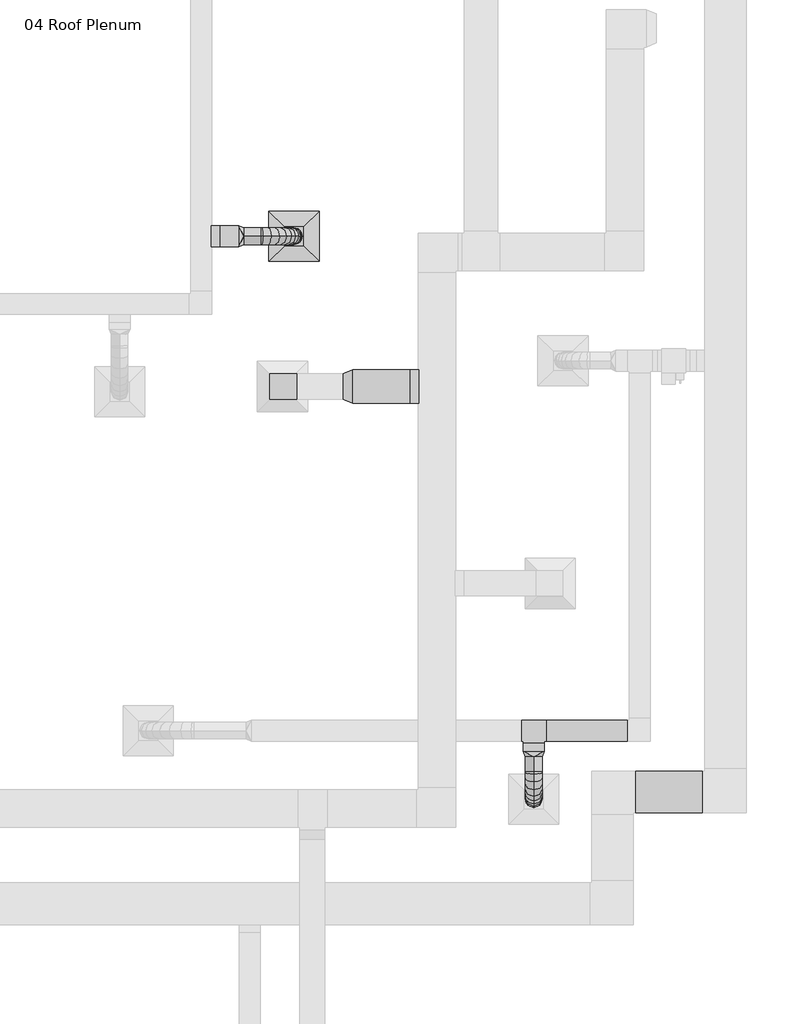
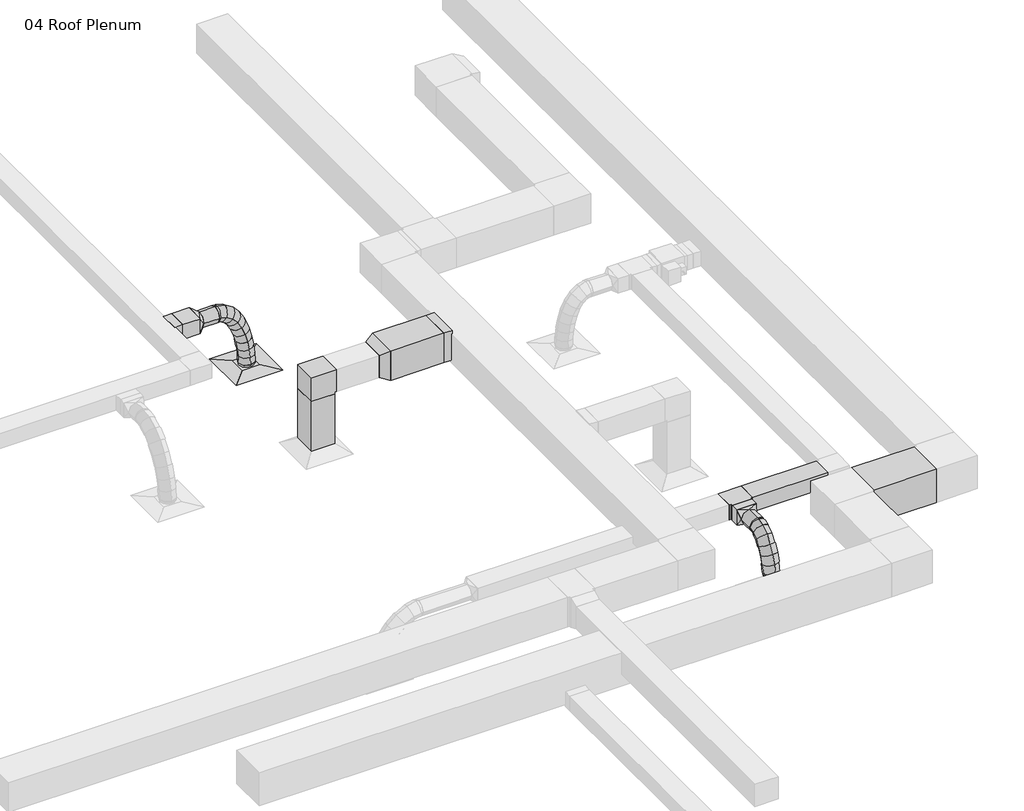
# One storey, part 4 of 9: 10 duct segments, 7 duct fittings, 1 air terminal.
"""IFC4 building model written with IfcOpenShell, lengths in millimetres."""

from ifc_helpers import new_model, si_unit, point, frame, frame_2d, origin, place, context, project, spatial, polyline, circle_curve, ellipse_curve, trimmed, segment, composite_curve, outline, extrude, transform, mapped, element, save
from ifc_brep_helpers import plane_surface, cylinder_surface, advanced_brep
from components import supply_diffuser_rectangular_face_round_neck_d30_6390248a, rectangular_elbow_mitered_standard_4ff1c4e8, rectangular_takeoff_standard_6de9fcd1, rectangular_takeoff_standard_c54ab2d1, rectangular_tee_standard_b316833c, rectangular_transition_angle_45_degree_0e490c41, rectangular_to_round_transition_angle_45_degree_e9430680

model = new_model("IFC4")

# Units and contexts
model_context = context("Model", 3, world=origin())
ifc_project = project(units=[si_unit("LENGTHUNIT", "METRE", prefix="MILLI")], contexts=[model_context])

# Site, building, storey
site = spatial("IfcSite", under=ifc_project)
building = spatial("IfcBuilding", under=site)
storey = spatial("IfcBuildingStorey", under=building, Name="04 Roof Plenum", Elevation=12192.0)

# Air terminal
placement = place(None, origin())
supply_diffuser_rectangular_face_round_neck_d30_shape = supply_diffuser_rectangular_face_round_neck_d30_6390248a(model_context)
element("IfcAirTerminal", 1, ObjectType="Supply Diffuser - Rectangular Face Round Neck : D30_SupplyDiffuser_24x24 8 Neck", at=placement, inside=storey, context=model_context, shape_type="MappedRepresentation", body=[
    mapped(supply_diffuser_rectangular_face_round_neck_d30_shape, transform((-9710.4163107, 6754.5033388, 12192.0), x_axis=(1.0, 0.0, 0.0), y_axis=(0.0, 1.0, 0.0), z_axis=(0.0, 0.0, 1.0))),
])

# Duct fittings
rectangular_elbow_mitered_standard_shape = rectangular_elbow_mitered_standard_4ff1c4e8(model_context)
element("IfcDuctFitting", 2, ObjectType="Rectangular Elbow - Mitered : Standard", at=placement, inside=storey, context=model_context, shape_type="MappedRepresentation", body=[
    mapped(rectangular_elbow_mitered_standard_shape, transform((-9849.7375216, 4928.6505887, 13157.2), x_axis=(0.0, 0.0, 1.0), y_axis=(1.0, 0.0, 0.0), z_axis=(0.0, 1.0, 0.0))),
])
rectangular_takeoff_standard_shape = rectangular_takeoff_standard_6de9fcd1(model_context)
element("IfcDuctFitting", 3, ObjectType="Rectangular Takeoff : Standard", at=placement, inside=storey, context=model_context, shape_type="MappedRepresentation", body=[
    mapped(rectangular_takeoff_standard_shape, transform((-8201.1142705, 4928.6505887, 13157.2), x_axis=(-1.0, 0.0, 0.0), y_axis=(0.0, 1.0, 0.0), z_axis=(0.0, 0.0, -1.0))),
])
rectangular_takeoff_standard_2_shape = rectangular_takeoff_standard_c54ab2d1(model_context)
element("IfcDuctFitting", 4, ObjectType="Rectangular Takeoff : Standard", at=placement, inside=storey, context=model_context, shape_type="MappedRepresentation", body=[
    mapped(rectangular_takeoff_standard_2_shape, transform((-10710.7723705, 6754.5033388, 13030.2), x_axis=(1.0, 0.0, 0.0), y_axis=(0.0, -1.0, 0.0), z_axis=(0.0, 0.0, -1.0))),
])
rectangular_tee_standard_shape = rectangular_tee_standard_b316833c(model_context)
element("IfcDuctFitting", 5, ObjectType="Rectangular Tee : Standard", at=placement, inside=storey, context=model_context, shape_type="MappedRepresentation", body=[
    mapped(rectangular_tee_standard_shape, transform((-6797.3043703, 747.3140793, 12903.2), x_axis=(1.0, 0.0, 0.0), y_axis=(0.0, 1.0, 0.0), z_axis=(0.0, 0.0, 1.0))),
])
rectangular_transition_angle_45_degree_shape = rectangular_transition_angle_45_degree_0e490c41(model_context)
element("IfcDuctFitting", 6, ObjectType="Rectangular Transition - Angle : 45 Degree", at=placement, inside=storey, context=model_context, shape_type="MappedRepresentation", body=[
    mapped(rectangular_transition_angle_45_degree_shape, transform((-8995.7497127, 4928.6505887, 13157.2), x_axis=(-1.0, 0.0, 0.0), y_axis=(0.0, -1.0, 0.0), z_axis=(0.0, 0.0, 1.0))),
])
rectangular_to_round_transition_angle_45_degree_shape = rectangular_to_round_transition_angle_45_degree_e9430680(model_context)
element("IfcDuctFitting", 7, ObjectType="Rectangular to Round Transition - Angle : 45 Degree", at=placement, inside=storey, context=model_context, shape_type="MappedRepresentation", body=[
    mapped(rectangular_to_round_transition_angle_45_degree_shape, transform((-6797.3043703, 493.3140793, 12903.2), x_axis=(0.0, -1.0, 0.0), y_axis=(1.0, 0.0, 0.0), z_axis=(0.0, 0.0, 1.0))),
])
element("IfcDuctFitting", 8, ObjectType="Rectangular to Round Transition - Angle : 45 Degree", at=placement, inside=storey, context=model_context, shape_type="MappedRepresentation", body=[
    mapped(rectangular_to_round_transition_angle_45_degree_shape, transform((-10380.5723705, 6754.5033388, 13030.2), x_axis=(1.0, 0.0, 0.0), y_axis=(0.0, 1.0, 0.0), z_axis=(0.0, 0.0, 1.0))),
])

# Duct segments
element("IfcDuctSegment", 9, ObjectType="Flex - Round", at=placement, inside=storey, context=model_context, shape_type="AdvancedBrep", body=[
    advanced_brep(
    [(-6695.7043703, 254.1930548, 12903.2), (-6797.3043703, 254.1930548, 12801.6), (-6898.9043703, 254.1930548, 12903.2), (-6797.3043703, 254.1930548, 13004.8), (-6695.7043703, 233.1763573, 12903.2), (-6797.3043703, 247.1409716, 12801.6), (-6898.9043703, 233.1763573, 12903.2), (-6797.3043703, 219.211743, 13004.8), (-6695.7043703, -88.3078325, 12245.975), (-6797.3043703, -189.9078325, 12245.975), (-6898.9043703, -88.3078325, 12245.975), (-6797.3043703, 13.2921675, 12245.975), (-6695.7043703, 168.5491909, 12885.092296), (-6797.3043703, 212.3389712, 12791.8489254), (-6898.9043703, 168.5491909, 12885.092296), (-6797.3043703, 124.7594106, 12978.3356666), (-6695.7043703, 96.4579833, 12835.248363), (-6797.3043703, 166.7318867, 12760.3161415), (-6898.9043703, 96.4579833, 12835.248363), (-6797.3043703, 26.18408, 12910.1805845), (-6695.7043703, 37.2618544, 12760.3869697), (-6797.3043703, 123.3489358, 12705.4526191), (-6898.9043703, 37.2618544, 12760.3869697), (-6797.3043703, -48.8252269, 12815.3213203), (-6695.7043703, -9.6967736, 12667.2268847), (-6797.3043703, 84.2619371, 12627.9088688), (-6898.9043703, -9.6967736, 12667.2268847), (-6797.3043703, -103.6554842, 12706.5449006), (-6695.7043703, -45.0754785, 12562.4868766), (-6797.3043703, 52.9097745, 12535.0895934), (-6898.9043703, -45.0754785, 12562.4868766), (-6797.3043703, -143.0607316, 12589.8841599), (-6695.7043703, -69.5318382, 12452.8857141), (-6797.3043703, 30.6101086, 12435.1536523), (-6898.9043703, -69.5318382, 12452.8857141), (-6797.3043703, -169.6737849, 12470.6177759), (-6695.7043703, -83.7234302, 12345.1421656), (-6797.3043703, 17.5539797, 12336.0306192), (-6898.9043703, -83.7234302, 12345.1421656), (-6797.3043703, -185.0008402, 12354.2537121), (-6695.7043703, -88.3078325, 12250.666859), (-6797.3043703, 13.2921675, 12248.2032448), (-6898.9043703, -88.3078325, 12250.666859), (-6797.3043703, -189.9078325, 12253.1304732)],
    [
        (0, 1, circle_curve(frame((-6797.3043703, 254.1930548, 12903.2), z_axis=(0.0, 1.0, 0.0), x_axis=(1.0, 0.0, 0.0)), 101.6)),
        (1, 2, circle_curve(frame((-6797.3043703, 254.1930548, 12903.2), z_axis=(0.0, 1.0, 0.0), x_axis=(1.0, 0.0, 0.0)), 101.6)),
        (2, 3, circle_curve(frame((-6797.3043703, 254.1930548, 12903.2), z_axis=(0.0, 1.0, 0.0), x_axis=(1.0, 0.0, 0.0)), 101.6)),
        (3, 0, circle_curve(frame((-6797.3043703, 254.1930548, 12903.2), z_axis=(0.0, 1.0, 0.0), x_axis=(1.0, 0.0, 0.0)), 101.6)),
        (0, 4),
        (4, 5, ellipse_curve(frame((-6797.3043703, 233.1763573, 12903.2), z_axis=(0.0, 0.9906859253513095, 0.1361667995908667), x_axis=(0.0, 0.13616679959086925, -0.9906859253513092)), 102.5552069, 101.6)),
        (5, 1),
        (5, 6, ellipse_curve(frame((-6797.3043703, 233.1763573, 12903.2), z_axis=(0.0, 0.9906859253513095, 0.1361667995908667), x_axis=(0.0, 0.13616679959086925, -0.9906859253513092)), 102.5552069, 101.6)),
        (6, 2),
        (6, 7, ellipse_curve(frame((-6797.3043703, 233.1763573, 12903.2), z_axis=(0.0, 0.9906859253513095, 0.1361667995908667), x_axis=(0.0, 0.13616679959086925, -0.9906859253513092)), 102.5552069, 101.6)),
        (7, 3),
        (7, 4, ellipse_curve(frame((-6797.3043703, 233.1763573, 12903.2), z_axis=(0.0, 0.9906859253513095, 0.1361667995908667), x_axis=(0.0, 0.13616679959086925, -0.9906859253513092)), 102.5552069, 101.6)),
        (8, 9, circle_curve(frame((-6797.3043703, -88.3078325, 12245.975), z_axis=(0.0, 0.0, -1.0), x_axis=(1.0, 0.0, 0.0)), 101.6)),
        (9, 10, circle_curve(frame((-6797.3043703, -88.3078325, 12245.975), z_axis=(0.0, 0.0, -1.0), x_axis=(1.0, 0.0, 0.0)), 101.6)),
        (10, 11, circle_curve(frame((-6797.3043703, -88.3078325, 12245.975), z_axis=(0.0, 0.0, -1.0), x_axis=(1.0, 0.0, 0.0)), 101.6)),
        (11, 8, circle_curve(frame((-6797.3043703, -88.3078325, 12245.975), z_axis=(0.0, 0.0, -1.0), x_axis=(1.0, 0.0, 0.0)), 101.6)),
        (4, 12),
        (12, 13, ellipse_curve(frame((-6797.3043703, 168.5491909, 12885.092296), z_axis=(0.0, 0.9051529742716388, 0.42508598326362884), x_axis=(0.0, 0.42508598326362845, -0.9051529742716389)), 103.0139361, 101.6)),
        (13, 5),
        (13, 14, ellipse_curve(frame((-6797.3043703, 168.5491909, 12885.092296), z_axis=(0.0, 0.9051529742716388, 0.42508598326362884), x_axis=(0.0, 0.42508598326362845, -0.9051529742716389)), 103.0139361, 101.6)),
        (14, 6),
        (14, 15, ellipse_curve(frame((-6797.3043703, 168.5491909, 12885.092296), z_axis=(0.0, 0.9051529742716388, 0.42508598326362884), x_axis=(0.0, 0.42508598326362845, -0.9051529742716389)), 103.0139361, 101.6)),
        (15, 7),
        (15, 12, ellipse_curve(frame((-6797.3043703, 168.5491909, 12885.092296), z_axis=(0.0, 0.9051529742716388, 0.42508598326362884), x_axis=(0.0, 0.42508598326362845, -0.9051529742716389)), 103.0139361, 101.6)),
        (12, 16),
        (16, 17, ellipse_curve(frame((-6797.3043703, 96.4579833, 12835.248363), z_axis=(0.0, 0.729416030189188, 0.6840703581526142), x_axis=(0.0, 0.6840703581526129, -0.729416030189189)), 102.7290577, 101.6)),
        (17, 13),
        (17, 18, ellipse_curve(frame((-6797.3043703, 96.4579833, 12835.248363), z_axis=(0.0, 0.729416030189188, 0.6840703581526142), x_axis=(0.0, 0.6840703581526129, -0.729416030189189)), 102.7290577, 101.6)),
        (18, 14),
        (18, 19, ellipse_curve(frame((-6797.3043703, 96.4579833, 12835.248363), z_axis=(0.0, 0.729416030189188, 0.6840703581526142), x_axis=(0.0, 0.6840703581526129, -0.729416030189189)), 102.7290577, 101.6)),
        (19, 15),
        (19, 16, ellipse_curve(frame((-6797.3043703, 96.4579833, 12835.248363), z_axis=(0.0, 0.729416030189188, 0.6840703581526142), x_axis=(0.0, 0.6840703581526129, -0.729416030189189)), 102.7290577, 101.6)),
        (16, 20),
        (20, 21, ellipse_curve(frame((-6797.3043703, 37.2618544, 12760.3869697), z_axis=(0.0, 0.5379321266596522, 0.8429881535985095), x_axis=(0.0, 0.842988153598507, -0.5379321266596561)), 102.1213418, 101.6)),
        (21, 17),
        (21, 22, ellipse_curve(frame((-6797.3043703, 37.2618544, 12760.3869697), z_axis=(0.0, 0.5379321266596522, 0.8429881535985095), x_axis=(0.0, 0.842988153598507, -0.5379321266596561)), 102.1213418, 101.6)),
        (22, 18),
        (22, 23, ellipse_curve(frame((-6797.3043703, 37.2618544, 12760.3869697), z_axis=(0.0, 0.5379321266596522, 0.8429881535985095), x_axis=(0.0, 0.842988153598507, -0.5379321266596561)), 102.1213418, 101.6)),
        (23, 19),
        (23, 20, ellipse_curve(frame((-6797.3043703, 37.2618544, 12760.3869697), z_axis=(0.0, 0.5379321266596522, 0.8429881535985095), x_axis=(0.0, 0.842988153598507, -0.5379321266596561)), 102.1213418, 101.6)),
        (20, 24),
        (24, 25, ellipse_curve(frame((-6797.3043703, -9.6967736, 12667.2268847), z_axis=(0.0, 0.3860249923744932, 0.9224883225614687), x_axis=(0.0, 0.9224883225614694, -0.386024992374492)), 101.8535502, 101.6)),
        (25, 21),
        (25, 26, ellipse_curve(frame((-6797.3043703, -9.6967736, 12667.2268847), z_axis=(0.0, 0.3860249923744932, 0.9224883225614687), x_axis=(0.0, 0.9224883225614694, -0.386024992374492)), 101.8535502, 101.6)),
        (26, 22),
        (26, 27, ellipse_curve(frame((-6797.3043703, -9.6967736, 12667.2268847), z_axis=(0.0, 0.3860249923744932, 0.9224883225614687), x_axis=(0.0, 0.9224883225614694, -0.386024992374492)), 101.8535502, 101.6)),
        (27, 23),
        (27, 24, ellipse_curve(frame((-6797.3043703, -9.6967736, 12667.2268847), z_axis=(0.0, 0.3860249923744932, 0.9224883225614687), x_axis=(0.0, 0.9224883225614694, -0.386024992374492)), 101.8535502, 101.6)),
        (24, 28),
        (28, 29, ellipse_curve(frame((-6797.3043703, -45.0754785, 12562.4868766), z_axis=(0.0, 0.26927821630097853, 0.9630624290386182), x_axis=(0.0, 0.9630624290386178, -0.26927821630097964)), 101.7434074, 101.6)),
        (29, 25),
        (29, 30, ellipse_curve(frame((-6797.3043703, -45.0754785, 12562.4868766), z_axis=(0.0, 0.26927821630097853, 0.9630624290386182), x_axis=(0.0, 0.9630624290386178, -0.26927821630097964)), 101.7434074, 101.6)),
        (30, 26),
        (30, 31, ellipse_curve(frame((-6797.3043703, -45.0754785, 12562.4868766), z_axis=(0.0, 0.26927821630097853, 0.9630624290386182), x_axis=(0.0, 0.9630624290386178, -0.26927821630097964)), 101.7434074, 101.6)),
        (31, 27),
        (31, 28, ellipse_curve(frame((-6797.3043703, -45.0754785, 12562.4868766), z_axis=(0.0, 0.26927821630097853, 0.9630624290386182), x_axis=(0.0, 0.9630624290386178, -0.26927821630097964)), 101.7434074, 101.6)),
        (28, 32),
        (32, 33, ellipse_curve(frame((-6797.3043703, -69.5318382, 12452.8857141), z_axis=(0.0, 0.1743570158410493, 0.9846825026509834), x_axis=(0.0, 0.984682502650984, -0.17435701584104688)), 101.6997321, 101.6)),
        (33, 29),
        (33, 34, ellipse_curve(frame((-6797.3043703, -69.5318382, 12452.8857141), z_axis=(0.0, 0.1743570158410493, 0.9846825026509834), x_axis=(0.0, 0.984682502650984, -0.17435701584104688)), 101.6997321, 101.6)),
        (34, 30),
        (34, 35, ellipse_curve(frame((-6797.3043703, -69.5318382, 12452.8857141), z_axis=(0.0, 0.1743570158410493, 0.9846825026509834), x_axis=(0.0, 0.984682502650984, -0.17435701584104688)), 101.6997321, 101.6)),
        (35, 31),
        (35, 32, ellipse_curve(frame((-6797.3043703, -69.5318382, 12452.8857141), z_axis=(0.0, 0.1743570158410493, 0.9846825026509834), x_axis=(0.0, 0.984682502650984, -0.17435701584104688)), 101.6997321, 101.6)),
        (32, 36),
        (36, 37, ellipse_curve(frame((-6797.3043703, -83.7234302, 12345.1421656), z_axis=(0.0, 0.08960433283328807, 0.9959774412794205), x_axis=(0.0, 0.99597744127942, -0.08960433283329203)), 101.6864496, 101.6)),
        (37, 33),
        (37, 38, ellipse_curve(frame((-6797.3043703, -83.7234302, 12345.1421656), z_axis=(0.0, 0.08960433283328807, 0.9959774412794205), x_axis=(0.0, 0.99597744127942, -0.08960433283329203)), 101.6864496, 101.6)),
        (38, 34),
        (38, 39, ellipse_curve(frame((-6797.3043703, -83.7234302, 12345.1421656), z_axis=(0.0, 0.08960433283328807, 0.9959774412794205), x_axis=(0.0, 0.99597744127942, -0.08960433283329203)), 101.6864496, 101.6)),
        (39, 35),
        (39, 36, ellipse_curve(frame((-6797.3043703, -83.7234302, 12345.1421656), z_axis=(0.0, 0.08960433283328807, 0.9959774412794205), x_axis=(0.0, 0.99597744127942, -0.08960433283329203)), 101.6864496, 101.6)),
        (36, 40),
        (40, 41, ellipse_curve(frame((-6797.3043703, -88.3078325, 12250.666859), z_axis=(0.0, 0.02424104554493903, 0.9997061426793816), x_axis=(0.0, 0.9997061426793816, -0.024241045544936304)), 101.6298647, 101.6)),
        (41, 37),
        (41, 42, ellipse_curve(frame((-6797.3043703, -88.3078325, 12250.666859), z_axis=(0.0, 0.02424104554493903, 0.9997061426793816), x_axis=(0.0, 0.9997061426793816, -0.024241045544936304)), 101.6298647, 101.6)),
        (42, 38),
        (42, 43, ellipse_curve(frame((-6797.3043703, -88.3078325, 12250.666859), z_axis=(0.0, 0.02424104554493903, 0.9997061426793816), x_axis=(0.0, 0.9997061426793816, -0.024241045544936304)), 101.6298647, 101.6)),
        (43, 39),
        (43, 40, ellipse_curve(frame((-6797.3043703, -88.3078325, 12250.666859), z_axis=(0.0, 0.02424104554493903, 0.9997061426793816), x_axis=(0.0, 0.9997061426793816, -0.024241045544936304)), 101.6298647, 101.6)),
        (40, 8),
        (11, 41),
        (10, 42),
        (9, 43),
    ],
    [
        plane_surface(frame((-6898.9043703, 254.1930548, 12903.2), z_axis=(0.0, 1.0, 0.0), x_axis=(0.0, 0.0, -1.0))),
        cylinder_surface(frame((-6797.3043703, 254.1930548, 12903.2), z_axis=(0.0, 1.0, 0.0), x_axis=(1.0, 0.0, 0.0)), 101.6),
        plane_surface(frame((-6797.3043703, -189.9078325, 12245.975), z_axis=(0.0, 0.0, -1.0), x_axis=(-1.0, 0.0, 0.0))),
        cylinder_surface(frame((-6797.3043703, 233.1763573, 12903.2), z_axis=(0.0, 0.9629172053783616, 0.26979706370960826), x_axis=(1.0, 0.0, 0.0)), 101.6),
        cylinder_surface(frame((-6797.3043703, 168.5491909, 12885.092296), z_axis=(0.0, 0.8225410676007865, 0.5687057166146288), x_axis=(1.0, 0.0, 0.0)), 101.6),
        cylinder_surface(frame((-6797.3043703, 96.4579833, 12835.248363), z_axis=(0.0, 0.6202574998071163, 0.7843982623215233), x_axis=(1.0, 0.0, 0.0)), 101.6),
        cylinder_surface(frame((-6797.3043703, 37.2618544, 12760.3869697), z_axis=(0.0, 0.45011433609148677, 0.8929709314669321), x_axis=(1.0, 0.0, 0.0)), 101.6),
        cylinder_surface(frame((-6797.3043703, -9.6967736, 12667.2268847), z_axis=(0.0, 0.3200137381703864, 0.9474129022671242), x_axis=(1.0, 0.0, 0.0)), 101.6),
        cylinder_surface(frame((-6797.3043703, -45.0754785, 12562.4868766), z_axis=(0.0, 0.21778359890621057, 0.975997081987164), x_axis=(1.0, 0.0, 0.0)), 101.6),
        cylinder_surface(frame((-6797.3043703, -69.5318382, 12452.8857141), z_axis=(0.0, 0.13058846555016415, 0.9914366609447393), x_axis=(1.0, 0.0, 0.0)), 101.6),
        cylinder_surface(frame((-6797.3043703, -83.7234302, 12345.1421656), z_axis=(0.0, 0.04846784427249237, 0.9988247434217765), x_axis=(1.0, 0.0, 0.0)), 101.6),
        cylinder_surface(frame((-6797.3043703, -88.3078325, 12250.666859), z_axis=(0.0, 0.0, 1.0), x_axis=(1.0, 0.0, 0.0)), 101.6),
    ],
    [
        (0, [[1, 2, 3, 4]]),
        (1, [[-1, 5, 6, 7]]),
        (1, [[-2, -7, 8, 9]]),
        (1, [[-3, -9, 10, 11]]),
        (1, [[-4, -11, 12, -5]]),
        (2, [[13, 14, 15, 16]]),
        (3, [[-6, 17, 18, 19]]),
        (3, [[-8, -19, 20, 21]]),
        (3, [[-10, -21, 22, 23]]),
        (3, [[-12, -23, 24, -17]]),
        (4, [[-18, 25, 26, 27]]),
        (4, [[-20, -27, 28, 29]]),
        (4, [[-22, -29, 30, 31]]),
        (4, [[-24, -31, 32, -25]]),
        (5, [[-26, 33, 34, 35]]),
        (5, [[-28, -35, 36, 37]]),
        (5, [[-30, -37, 38, 39]]),
        (5, [[-32, -39, 40, -33]]),
        (6, [[-34, 41, 42, 43]]),
        (6, [[-36, -43, 44, 45]]),
        (6, [[-38, -45, 46, 47]]),
        (6, [[-40, -47, 48, -41]]),
        (7, [[-42, 49, 50, 51]]),
        (7, [[-44, -51, 52, 53]]),
        (7, [[-46, -53, 54, 55]]),
        (7, [[-48, -55, 56, -49]]),
        (8, [[-50, 57, 58, 59]]),
        (8, [[-52, -59, 60, 61]]),
        (8, [[-54, -61, 62, 63]]),
        (8, [[-56, -63, 64, -57]]),
        (9, [[-58, 65, 66, 67]]),
        (9, [[-60, -67, 68, 69]]),
        (9, [[-62, -69, 70, 71]]),
        (9, [[-64, -71, 72, -65]]),
        (10, [[-66, 73, 74, 75]]),
        (10, [[-68, -75, 76, 77]]),
        (10, [[-70, -77, 78, 79]]),
        (10, [[-72, -79, 80, -73]]),
        (11, [[-74, 81, -16, 82]]),
        (11, [[-76, -82, -15, 83]]),
        (11, [[-78, -83, -14, 84]]),
        (11, [[-80, -84, -13, -81]]),
    ],
),
])
element("IfcDuctSegment", 10, ObjectType="Flex - Round", at=placement, inside=storey, context=model_context, shape_type="AdvancedBrep", body=[
    advanced_brep(
    [(-10116.051346, 6856.1033388, 13030.2), (-10116.051346, 6754.5033388, 12928.6), (-10116.051346, 6652.9033388, 13030.2), (-10116.051346, 6754.5033388, 13131.8), (-10097.2613499, 6856.1033388, 13030.2), (-10109.1301568, 6754.5033388, 12928.6), (-10097.2613499, 6652.9033388, 13030.2), (-10085.392543, 6754.5033388, 13131.8), (-9710.4163107, 6856.1033388, 12245.975), (-9608.8163107, 6754.5033388, 12245.975), (-9710.4163107, 6652.9033388, 12245.975), (-9812.0163107, 6754.5033388, 12245.975), (-10024.6277675, 6856.1033388, 13012.9952525), (-10063.7514042, 6754.5033388, 12917.8511156), (-10024.6277675, 6652.9033388, 13012.9952525), (-9985.5041308, 6754.5033388, 13108.1393895), (-9946.1684467, 6856.1033388, 12965.1424888), (-10011.5801659, 6754.5033388, 12886.0315955), (-9946.1684467, 6652.9033388, 12965.1424888), (-9880.7567276, 6754.5033388, 13044.2533822), (-9880.0836682, 6856.1033388, 12892.2839269), (-9962.3441922, 6754.5033388, 12831.7488648), (-9880.0836682, 6652.9033388, 12892.2839269), (-9797.8231442, 6754.5033388, 12952.818989), (-9825.7837163, 6856.1033388, 12800.0617847), (-9917.0975886, 6754.5033388, 12754.9027798), (-9825.7837163, 6652.9033388, 12800.0617847), (-9734.469844, 6754.5033388, 12845.2207896), (-9782.6788754, 6856.1033388, 12694.1182803), (-9878.8716624, 6754.5033388, 12660.9507203), (-9782.6788754, 6652.9033388, 12694.1182803), (-9686.4860884, 6754.5033388, 12727.2858402), (-9750.17943, 6856.1033388, 12580.0956316), (-9849.0995098, 6754.5033388, 12556.4966397), (-9750.17943, 6652.9033388, 12580.0956316), (-9651.2593501, 6754.5033388, 12603.6946235), (-9727.6956644, 6856.1033388, 12463.6360566), (-9828.1850451, 6754.5033388, 12448.165601), (-9727.6956644, 6652.9033388, 12463.6360566), (-9627.2062838, 6754.5033388, 12479.1065123), (-9714.6378632, 6856.1033388, 12350.3817734), (-9815.9925683, 6754.5033388, 12342.4165399), (-9714.6378632, 6652.9033388, 12350.3817734), (-9613.2831581, 6754.5033388, 12358.347007), (-9710.4163107, 6856.1033388, 12250.0797103), (-9812.0163107, 6754.5033388, 12247.942566), (-9710.4163107, 6652.9033388, 12250.0797103), (-9608.8163107, 6754.5033388, 12252.2168545)],
    [
        (0, 1, circle_curve(frame((-10116.051346, 6754.5033388, 13030.2), z_axis=(-1.0, 0.0, 0.0), x_axis=(0.0, 1.0, 0.0)), 101.6)),
        (1, 2, circle_curve(frame((-10116.051346, 6754.5033388, 13030.2), z_axis=(-1.0, 0.0, 0.0), x_axis=(0.0, 1.0, 0.0)), 101.6)),
        (2, 3, circle_curve(frame((-10116.051346, 6754.5033388, 13030.2), z_axis=(-1.0, 0.0, 0.0), x_axis=(0.0, 1.0, 0.0)), 101.6)),
        (3, 0, circle_curve(frame((-10116.051346, 6754.5033388, 13030.2), z_axis=(-1.0, 0.0, 0.0), x_axis=(0.0, 1.0, 0.0)), 101.6)),
        (0, 4),
        (4, 5, ellipse_curve(frame((-10097.2613499, 6754.5033388, 13030.2), z_axis=(-0.993245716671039, 0.0, 0.11602993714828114), x_axis=(-0.11602993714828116, 0.0, -0.9932457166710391)), 102.2909017, 101.6)),
        (5, 1),
        (5, 6, ellipse_curve(frame((-10097.2613499, 6754.5033388, 13030.2), z_axis=(-0.993245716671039, 0.0, 0.11602993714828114), x_axis=(-0.11602993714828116, 0.0, -0.9932457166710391)), 102.2909017, 101.6)),
        (6, 2),
        (6, 7, ellipse_curve(frame((-10097.2613499, 6754.5033388, 13030.2), z_axis=(-0.993245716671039, 0.0, 0.11602993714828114), x_axis=(-0.11602993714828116, 0.0, -0.9932457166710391)), 102.2909017, 101.6)),
        (7, 3),
        (7, 4, ellipse_curve(frame((-10097.2613499, 6754.5033388, 13030.2), z_axis=(-0.993245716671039, 0.0, 0.11602993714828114), x_axis=(-0.11602993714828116, 0.0, -0.9932457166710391)), 102.2909017, 101.6)),
        (8, 9, circle_curve(frame((-9710.4163107, 6754.5033388, 12245.975), z_axis=(0.0, 0.0, -1.0), x_axis=(0.0, 1.0, 0.0)), 101.6)),
        (9, 10, circle_curve(frame((-9710.4163107, 6754.5033388, 12245.975), z_axis=(0.0, 0.0, -1.0), x_axis=(0.0, 1.0, 0.0)), 101.6)),
        (10, 11, circle_curve(frame((-9710.4163107, 6754.5033388, 12245.975), z_axis=(0.0, 0.0, -1.0), x_axis=(0.0, 1.0, 0.0)), 101.6)),
        (11, 8, circle_curve(frame((-9710.4163107, 6754.5033388, 12245.975), z_axis=(0.0, 0.0, -1.0), x_axis=(0.0, 1.0, 0.0)), 101.6)),
        (4, 12),
        (12, 13, ellipse_curve(frame((-10024.6277675, 6754.5033388, 13012.9952525), z_axis=(-0.9248606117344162, 0.0, 0.38030625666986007), x_axis=(-0.38030625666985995, 0.0, -0.9248606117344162)), 102.8740285, 101.6)),
        (13, 5),
        (13, 14, ellipse_curve(frame((-10024.6277675, 6754.5033388, 13012.9952525), z_axis=(-0.9248606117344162, 0.0, 0.38030625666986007), x_axis=(-0.38030625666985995, 0.0, -0.9248606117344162)), 102.8740285, 101.6)),
        (14, 6),
        (14, 15, ellipse_curve(frame((-10024.6277675, 6754.5033388, 13012.9952525), z_axis=(-0.9248606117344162, 0.0, 0.38030625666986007), x_axis=(-0.38030625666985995, 0.0, -0.9248606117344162)), 102.8740285, 101.6)),
        (15, 7),
        (15, 12, ellipse_curve(frame((-10024.6277675, 6754.5033388, 13012.9952525), z_axis=(-0.9248606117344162, 0.0, 0.38030625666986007), x_axis=(-0.38030625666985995, 0.0, -0.9248606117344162)), 102.8740285, 101.6)),
        (12, 16),
        (16, 17, ellipse_curve(frame((-9946.1684467, 6754.5033388, 12965.1424888), z_axis=(-0.7706783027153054, 0.0, 0.6372244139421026), x_axis=(-0.6372244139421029, 0.0, -0.7706783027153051)), 102.6509934, 101.6)),
        (17, 13),
        (17, 18, ellipse_curve(frame((-9946.1684467, 6754.5033388, 12965.1424888), z_axis=(-0.7706783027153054, 0.0, 0.6372244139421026), x_axis=(-0.6372244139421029, 0.0, -0.7706783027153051)), 102.6509934, 101.6)),
        (18, 14),
        (18, 19, ellipse_curve(frame((-9946.1684467, 6754.5033388, 12965.1424888), z_axis=(-0.7706783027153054, 0.0, 0.6372244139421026), x_axis=(-0.6372244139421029, 0.0, -0.7706783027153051)), 102.6509934, 101.6)),
        (19, 15),
        (19, 16, ellipse_curve(frame((-9946.1684467, 6754.5033388, 12965.1424888), z_axis=(-0.7706783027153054, 0.0, 0.6372244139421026), x_axis=(-0.6372244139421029, 0.0, -0.7706783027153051)), 102.6509934, 101.6)),
        (16, 20),
        (20, 21, ellipse_curve(frame((-9880.0836682, 6754.5033388, 12892.2839269), z_axis=(-0.5927042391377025, 0.0, 0.805420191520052), x_axis=(-0.8054201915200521, 0.0, -0.5927042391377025)), 102.1336749, 101.6)),
        (21, 17),
        (21, 22, ellipse_curve(frame((-9880.0836682, 6754.5033388, 12892.2839269), z_axis=(-0.5927042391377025, 0.0, 0.805420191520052), x_axis=(-0.8054201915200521, 0.0, -0.5927042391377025)), 102.1336749, 101.6)),
        (22, 18),
        (22, 23, ellipse_curve(frame((-9880.0836682, 6754.5033388, 12892.2839269), z_axis=(-0.5927042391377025, 0.0, 0.805420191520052), x_axis=(-0.8054201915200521, 0.0, -0.5927042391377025)), 102.1336749, 101.6)),
        (23, 19),
        (23, 20, ellipse_curve(frame((-9880.0836682, 6754.5033388, 12892.2839269), z_axis=(-0.5927042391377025, 0.0, 0.805420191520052), x_axis=(-0.8054201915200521, 0.0, -0.5927042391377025)), 102.1336749, 101.6)),
        (20, 24),
        (24, 25, ellipse_curve(frame((-9825.7837163, 6754.5033388, 12800.0617847), z_axis=(-0.44329900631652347, 0.0, 0.8963738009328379), x_axis=(-0.8963738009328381, 0.0, -0.44329900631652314)), 101.8703048, 101.6)),
        (25, 21),
        (25, 26, ellipse_curve(frame((-9825.7837163, 6754.5033388, 12800.0617847), z_axis=(-0.44329900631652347, 0.0, 0.8963738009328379), x_axis=(-0.8963738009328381, 0.0, -0.44329900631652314)), 101.8703048, 101.6)),
        (26, 22),
        (26, 27, ellipse_curve(frame((-9825.7837163, 6754.5033388, 12800.0617847), z_axis=(-0.44329900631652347, 0.0, 0.8963738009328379), x_axis=(-0.8963738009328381, 0.0, -0.44329900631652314)), 101.8703048, 101.6)),
        (27, 23),
        (27, 24, ellipse_curve(frame((-9825.7837163, 6754.5033388, 12800.0617847), z_axis=(-0.44329900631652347, 0.0, 0.8963738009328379), x_axis=(-0.8963738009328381, 0.0, -0.44329900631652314)), 101.8703048, 101.6)),
        (24, 28),
        (28, 29, ellipse_curve(frame((-9782.6788754, 6754.5033388, 12694.1182803), z_axis=(-0.32596989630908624, 0.0, 0.9453801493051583), x_axis=(-0.9453801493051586, 0.0, -0.3259698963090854)), 101.7503774, 101.6)),
        (29, 25),
        (29, 30, ellipse_curve(frame((-9782.6788754, 6754.5033388, 12694.1182803), z_axis=(-0.32596989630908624, 0.0, 0.9453801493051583), x_axis=(-0.9453801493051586, 0.0, -0.3259698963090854)), 101.7503774, 101.6)),
        (30, 26),
        (30, 31, ellipse_curve(frame((-9782.6788754, 6754.5033388, 12694.1182803), z_axis=(-0.32596989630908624, 0.0, 0.9453801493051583), x_axis=(-0.9453801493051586, 0.0, -0.3259698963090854)), 101.7503774, 101.6)),
        (31, 27),
        (31, 28, ellipse_curve(frame((-9782.6788754, 6754.5033388, 12694.1182803), z_axis=(-0.32596989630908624, 0.0, 0.9453801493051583), x_axis=(-0.9453801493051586, 0.0, -0.3259698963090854)), 101.7503774, 101.6)),
        (28, 32),
        (32, 33, ellipse_curve(frame((-9750.17943, 6754.5033388, 12580.0956316), z_axis=(-0.23205407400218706, 0.0, 0.9727028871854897), x_axis=(-0.9727028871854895, 0.0, -0.23205407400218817)), 101.6960895, 101.6)),
        (33, 29),
        (33, 34, ellipse_curve(frame((-9750.17943, 6754.5033388, 12580.0956316), z_axis=(-0.23205407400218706, 0.0, 0.9727028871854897), x_axis=(-0.9727028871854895, 0.0, -0.23205407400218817)), 101.6960895, 101.6)),
        (34, 30),
        (34, 35, ellipse_curve(frame((-9750.17943, 6754.5033388, 12580.0956316), z_axis=(-0.23205407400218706, 0.0, 0.9727028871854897), x_axis=(-0.9727028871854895, 0.0, -0.23205407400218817)), 101.6960895, 101.6)),
        (35, 31),
        (35, 32, ellipse_curve(frame((-9750.17943, 6754.5033388, 12580.0956316), z_axis=(-0.23205407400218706, 0.0, 0.9727028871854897), x_axis=(-0.9727028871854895, 0.0, -0.23205407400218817)), 101.6960895, 101.6)),
        (32, 36),
        (36, 37, ellipse_curve(frame((-9727.6956644, 6754.5033388, 12463.6360566), z_axis=(-0.15215855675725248, 0.0, 0.9883560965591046), x_axis=(-0.988356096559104, 0.0, -0.1521585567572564)), 101.6732542, 101.6)),
        (37, 33),
        (37, 38, ellipse_curve(frame((-9727.6956644, 6754.5033388, 12463.6360566), z_axis=(-0.15215855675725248, 0.0, 0.9883560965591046), x_axis=(-0.988356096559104, 0.0, -0.1521585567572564)), 101.6732542, 101.6)),
        (38, 34),
        (38, 39, ellipse_curve(frame((-9727.6956644, 6754.5033388, 12463.6360566), z_axis=(-0.15215855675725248, 0.0, 0.9883560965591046), x_axis=(-0.988356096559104, 0.0, -0.1521585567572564)), 101.6732542, 101.6)),
        (39, 35),
        (39, 36, ellipse_curve(frame((-9727.6956644, 6754.5033388, 12463.6360566), z_axis=(-0.15215855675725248, 0.0, 0.9883560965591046), x_axis=(-0.988356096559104, 0.0, -0.1521585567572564)), 101.6732542, 101.6)),
        (36, 40),
        (40, 41, ellipse_curve(frame((-9714.6378632, 6754.5033388, 12350.3817734), z_axis=(-0.07834614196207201, 0.0, 0.9969262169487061), x_axis=(-0.9969262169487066, 0.0, -0.07834614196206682)), 101.667208, 101.6)),
        (41, 37),
        (41, 42, ellipse_curve(frame((-9714.6378632, 6754.5033388, 12350.3817734), z_axis=(-0.07834614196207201, 0.0, 0.9969262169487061), x_axis=(-0.9969262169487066, 0.0, -0.07834614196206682)), 101.667208, 101.6)),
        (42, 38),
        (42, 43, ellipse_curve(frame((-9714.6378632, 6754.5033388, 12350.3817734), z_axis=(-0.07834614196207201, 0.0, 0.9969262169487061), x_axis=(-0.9969262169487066, 0.0, -0.07834614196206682)), 101.667208, 101.6)),
        (43, 39),
        (43, 40, ellipse_curve(frame((-9714.6378632, 6754.5033388, 12350.3817734), z_axis=(-0.07834614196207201, 0.0, 0.9969262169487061), x_axis=(-0.9969262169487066, 0.0, -0.07834614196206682)), 101.667208, 101.6)),
        (40, 44),
        (44, 45, ellipse_curve(frame((-9710.4163107, 6754.5033388, 12250.0797103), z_axis=(-0.021030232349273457, 0.0, 0.999778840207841), x_axis=(-0.9997788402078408, 0.0, -0.02103023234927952)), 101.6224748, 101.6)),
        (45, 41),
        (45, 46, ellipse_curve(frame((-9710.4163107, 6754.5033388, 12250.0797103), z_axis=(-0.021030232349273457, 0.0, 0.999778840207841), x_axis=(-0.9997788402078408, 0.0, -0.02103023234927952)), 101.6224748, 101.6)),
        (46, 42),
        (46, 47, ellipse_curve(frame((-9710.4163107, 6754.5033388, 12250.0797103), z_axis=(-0.021030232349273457, 0.0, 0.999778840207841), x_axis=(-0.9997788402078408, 0.0, -0.02103023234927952)), 101.6224748, 101.6)),
        (47, 43),
        (47, 44, ellipse_curve(frame((-9710.4163107, 6754.5033388, 12250.0797103), z_axis=(-0.021030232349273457, 0.0, 0.999778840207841), x_axis=(-0.9997788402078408, 0.0, -0.02103023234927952)), 101.6224748, 101.6)),
        (44, 8),
        (11, 45),
        (10, 46),
        (9, 47),
    ],
    [
        plane_surface(frame((-10116.051346, 6754.5033388, 12928.6), z_axis=(-1.0, 0.0, 0.0), x_axis=(0.0, 1.0, 0.0))),
        cylinder_surface(frame((-10116.051346, 6754.5033388, 13030.2), z_axis=(-1.0, 0.0, 0.0), x_axis=(0.0, 1.0, 0.0)), 101.6),
        plane_surface(frame((-9710.4163107, 6652.9033388, 12245.975), z_axis=(0.0, 0.0, -1.0), x_axis=(-1.0, 0.0, 0.0))),
        cylinder_surface(frame((-10097.2613499, 6754.5033388, 13030.2), z_axis=(-0.9730741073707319, 0.0, 0.23049247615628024), x_axis=(0.0, 1.0, 0.0)), 101.6),
        cylinder_surface(frame((-10024.6277675, 6754.5033388, 13012.9952525), z_axis=(-0.8537395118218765, 0.0, 0.5207003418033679), x_axis=(0.0, 1.0, 0.0)), 101.6),
        cylinder_surface(frame((-9946.1684467, 6754.5033388, 12965.1424888), z_axis=(-0.6718358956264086, 0.0, 0.7407000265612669), x_axis=(0.0, 1.0, 0.0)), 101.6),
        cylinder_surface(frame((-9880.0836682, 6754.5033388, 12892.2839269), z_axis=(-0.5073785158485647, 0.0, 0.8617232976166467), x_axis=(0.0, 1.0, 0.0)), 101.6),
        cylinder_surface(frame((-9825.7837163, 6754.5033388, 12800.0617847), z_axis=(-0.3768669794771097, 0.0, 0.9262673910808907), x_axis=(0.0, 1.0, 0.0)), 101.6),
        cylinder_surface(frame((-9782.6788754, 6754.5033388, 12694.1182803), z_axis=(-0.27410930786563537, 0.0, 0.9616985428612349), x_axis=(0.0, 1.0, 0.0)), 101.6),
        cylinder_surface(frame((-9750.17943, 6754.5033388, 12580.0956316), z_axis=(-0.18956031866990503, 0.0, 0.9818690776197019), x_axis=(0.0, 1.0, 0.0)), 101.6),
        cylinder_surface(frame((-9727.6956644, 6754.5033388, 12463.6360566), z_axis=(-0.11453753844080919, 0.0, 0.9934189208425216), x_axis=(0.0, 1.0, 0.0)), 101.6),
        cylinder_surface(frame((-9714.6378632, 6754.5033388, 12350.3817734), z_axis=(-0.04205116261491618, 0.0, 0.9991154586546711), x_axis=(0.0, 1.0, 0.0)), 101.6),
        cylinder_surface(frame((-9710.4163107, 6754.5033388, 12250.0797103), z_axis=(0.0, 0.0, 1.0), x_axis=(0.0, 1.0, 0.0)), 101.6),
    ],
    [
        (0, [[1, 2, 3, 4]]),
        (1, [[-1, 5, 6, 7]]),
        (1, [[-2, -7, 8, 9]]),
        (1, [[-3, -9, 10, 11]]),
        (1, [[-4, -11, 12, -5]]),
        (2, [[13, 14, 15, 16]]),
        (3, [[-6, 17, 18, 19]]),
        (3, [[-8, -19, 20, 21]]),
        (3, [[-10, -21, 22, 23]]),
        (3, [[-12, -23, 24, -17]]),
        (4, [[-18, 25, 26, 27]]),
        (4, [[-20, -27, 28, 29]]),
        (4, [[-22, -29, 30, 31]]),
        (4, [[-24, -31, 32, -25]]),
        (5, [[-26, 33, 34, 35]]),
        (5, [[-28, -35, 36, 37]]),
        (5, [[-30, -37, 38, 39]]),
        (5, [[-32, -39, 40, -33]]),
        (6, [[-34, 41, 42, 43]]),
        (6, [[-36, -43, 44, 45]]),
        (6, [[-38, -45, 46, 47]]),
        (6, [[-40, -47, 48, -41]]),
        (7, [[-42, 49, 50, 51]]),
        (7, [[-44, -51, 52, 53]]),
        (7, [[-46, -53, 54, 55]]),
        (7, [[-48, -55, 56, -49]]),
        (8, [[-50, 57, 58, 59]]),
        (8, [[-52, -59, 60, 61]]),
        (8, [[-54, -61, 62, 63]]),
        (8, [[-56, -63, 64, -57]]),
        (9, [[-58, 65, 66, 67]]),
        (9, [[-60, -67, 68, 69]]),
        (9, [[-62, -69, 70, 71]]),
        (9, [[-64, -71, 72, -65]]),
        (10, [[-66, 73, 74, 75]]),
        (10, [[-68, -75, 76, 77]]),
        (10, [[-70, -77, 78, 79]]),
        (10, [[-72, -79, 80, -73]]),
        (11, [[-74, 81, 82, 83]]),
        (11, [[-76, -83, 84, 85]]),
        (11, [[-78, -85, 86, 87]]),
        (11, [[-80, -87, 88, -81]]),
        (12, [[-82, 89, -16, 90]]),
        (12, [[-84, -90, -15, 91]]),
        (12, [[-86, -91, -14, 92]]),
        (12, [[-88, -92, -13, -89]]),
    ],
),
])
element("IfcDuctSegment", 11, ObjectType="Mitered Elbows / Taps", at=placement, inside=storey, context=model_context, shape_type="SweptSolid", body=[
    extrude(outline(polyline([(-10609.1723705, 6627.5033388), (-10609.1723705, 6881.5033388), (-10380.5723705, 6881.5033388), (-10380.5723705, 6627.5033388), (-10609.1723705, 6627.5033388)])), frame((0.0, 0.0, 12928.6), z_axis=(0.0, 0.0, 1.0), x_axis=(1.0, 0.0, 0.0)), (0.0, 0.0, 1.0), 203.2),
])
element("IfcDuctSegment", 12, ObjectType="Mitered Elbows / Taps", at=placement, inside=storey, context=model_context, shape_type="SweptSolid", body=[
    extrude(outline(polyline([(-8302.7142705, 5131.8505887), (-8302.7142705, 4725.4505887), (-8995.7497127, 4725.4505887), (-8995.7497127, 5131.8505887), (-8302.7142705, 5131.8505887)])), frame((0.0, 0.0, 12954.0), z_axis=(0.0, 0.0, 1.0), x_axis=(1.0, 0.0, 0.0)), (0.0, 0.0, 1.0), 406.4),
])
element("IfcDuctSegment", 13, ObjectType="Mitered Elbows / Taps", at=placement, inside=storey, context=model_context, shape_type="SweptSolid", body=[
    extrude(outline(polyline([(-9697.3375216, 5081.0505887), (-9697.3375216, 4776.2505887), (-10002.1375216, 4776.2505887), (-10002.1375216, 5081.0505887), (-9697.3375216, 5081.0505887)])), frame((0.0, 0.0, 12293.6), z_axis=(0.0, 0.0, 1.0), x_axis=(1.0, 0.0, 0.0)), (0.0, 0.0, 1.0), 685.8),
])
element("IfcDuctSegment", 14, ObjectType="Mitered Elbows / Tees", at=placement, inside=storey, context=model_context, shape_type="SweptSolid", body=[
    extrude(outline(polyline([(-5559.5142705, -252.3190683), (-5559.5142705, 255.6809317), (-4746.7142705, 255.6809317), (-4746.7142705, -252.3190683), (-5559.5142705, -252.3190683)])), frame((0.0, 0.0, 12801.6), z_axis=(0.0, 0.0, 1.0), x_axis=(1.0, 0.0, 0.0)), (0.0, 0.0, 1.0), 457.2),
])
element("IfcDuctSegment", 15, ObjectType="Mitered Elbows / Tees", at=placement, inside=storey, context=model_context, shape_type="SweptSolid", body=[
    extrude(outline(polyline([(-6924.3043703, 594.9140793), (-6670.3043703, 594.9140793), (-6670.3043703, 493.3140793), (-6924.3043703, 493.3140793), (-6924.3043703, 594.9140793)])), frame((0.0, 0.0, 12801.6), z_axis=(0.0, 0.0, 1.0), x_axis=(1.0, 0.0, 0.0)), (0.0, 0.0, 1.0), 203.2),
])
element("IfcDuctSegment", 16, ObjectType="Mitered Elbows / Tees", at=placement, inside=storey, context=model_context, shape_type="SweptSolid", body=[
    extrude(outline(polyline([(-5660.3178172, 874.3140793), (-5660.3178172, 620.3140793), (-6644.9043703, 620.3140793), (-6644.9043703, 874.3140793), (-5660.3178172, 874.3140793)])), frame((0.0, 0.0, 12801.6), z_axis=(0.0, 0.0, 1.0), x_axis=(1.0, 0.0, 0.0)), (0.0, 0.0, 1.0), 203.2),
])
element("IfcDuctSegment", 17, ObjectType="Taps", at=placement, inside=storey, context=model_context, shape_type="SweptSolid", body=[
    extrude(outline(composite_curve([segment(trimmed(circle_curve(frame_2d((12903.2, -6797.3043703)), 101.6), [point((12903.2, -6898.9043703))], [point((12801.6, -6797.3043703))], False, "CARTESIAN"), True, "CONTINUOUS"), segment(trimmed(circle_curve(frame_2d((12903.2, -6797.3043703)), 101.6), [point((12801.6, -6797.3043703))], [point((12903.2, -6695.7043703))], False, "CARTESIAN"), True, "CONTINUOUS"), segment(trimmed(circle_curve(frame_2d((12903.2, -6797.3043703)), 101.6), [point((12903.2, -6695.7043703))], [point((13004.8, -6797.3043703))], False, "CARTESIAN"), True, "CONTINUOUS"), segment(trimmed(circle_curve(frame_2d((12903.2, -6797.3043703)), 101.6), [point((13004.8, -6797.3043703))], [point((12903.2, -6898.9043703))], False, "CARTESIAN"), True, "CONTINUOUS")], self_intersect=False)), frame((0.0, 254.1930548, 0.0), z_axis=(0.0, 1.0, 0.0), x_axis=(0.0, 0.0, 1.0)), (0.0, 0.0, 1.0), 177.8),
])
element("IfcDuctSegment", 18, ObjectType="Taps", at=placement, inside=storey, context=model_context, shape_type="SweptSolid", body=[
    extrude(outline(composite_curve([segment(trimmed(circle_curve(frame_2d((6754.5033388, 13030.2)), 101.6), [point((6652.9033388, 13030.2))], [point((6754.5033388, 13131.8))], False, "CARTESIAN"), True, "CONTINUOUS"), segment(trimmed(circle_curve(frame_2d((6754.5033388, 13030.2)), 101.6), [point((6754.5033388, 13131.8))], [point((6856.1033388, 13030.2))], False, "CARTESIAN"), True, "CONTINUOUS"), segment(trimmed(circle_curve(frame_2d((6754.5033388, 13030.2)), 101.6), [point((6856.1033388, 13030.2))], [point((6754.5033388, 12928.6))], False, "CARTESIAN"), True, "CONTINUOUS"), segment(trimmed(circle_curve(frame_2d((6754.5033388, 13030.2)), 101.6), [point((6754.5033388, 12928.6))], [point((6652.9033388, 13030.2))], False, "CARTESIAN"), True, "CONTINUOUS")], self_intersect=False)), frame((-10319.251346, 0.0, 0.0), z_axis=(1.0, 0.0, 0.0), x_axis=(0.0, 1.0, 0.0)), (0.0, 0.0, 1.0), 203.2),
])

save(model, "model.ifc")
